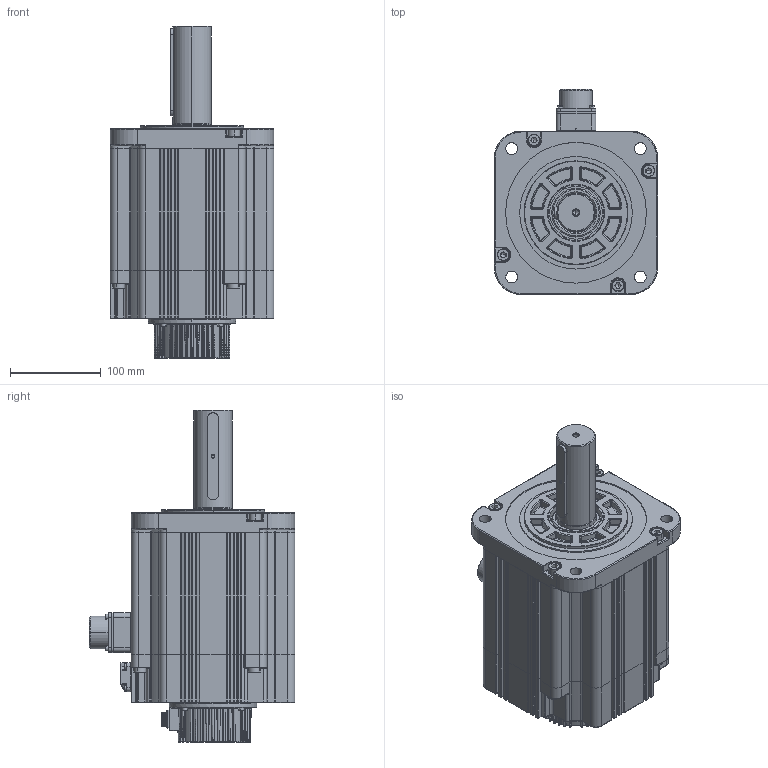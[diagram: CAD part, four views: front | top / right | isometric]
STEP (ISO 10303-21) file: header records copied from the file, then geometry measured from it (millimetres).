
FILE_DESCRIPTION (( 'STEP AP214' ), '1' );
FILE_NAME ('V7E-M18D-4R415-D2BH.STEP', '2021-08-10T05:27:57', ( '' ), ( '' ), 'SwSTEP 2.0', 'SolidWorks 2014', '' );
FILE_SCHEMA (( 'AUTOMOTIVE_DESIGN' ));
Length unit declared in the file: millimetre
Products named in the file (20): SC180儂褲1009; 180粣-47沺郋; SC180ヶ傷裔1009; SCSC瑤諾脣芛 16M-9H; 180#陔隅赽201019; す瑩^180#陔萇儂-拸价陬 201021; V7E-M18D-4R415-D2BH; 埴芛囀鞠褒 ISO 4762 M3 x 30 --- 18N; SC180#綴傷裔蹟隊熬傻-201020; SC蚐猾 D00B999YF8-TC 44-62-10; 埴芛囀鞠褒 ISO 4762 M3 x 10 --- 10N; 埴芛囀鞠褒 ISO 4762 M3 x 8 --- 8N; SC晤鎢ん欶200908_10郋; SC180瑤脣釱1015; 埴芛囀鞠褒 ISO 4762 M6 x 20 --- 20N; 价陬揤盄裔200912; 綴傷裔-111; SC瑤諾脣芛 24-11-9pin; 坋趼攫芛蹟佪 M2X8-8  H type-N; 埴芛囀鞠褒 ISO 4762 M8 x 30 --- 30N
Assembly tree (40 placements, depth 3):
  V7E-M18D-4R415-D2BH
    180#陔隅赽201019
      SC180儂褲1009
      SC180ヶ傷裔1009
      SC180瑤脣釱1015
    SC晤鎢ん欶200908_10郋
    SCSC瑤諾脣芛 16M-9H
    SC蚐猾 D00B999YF8-TC 44-62-10
    坋趼攫芛蹟佪 M2X8-8  H type-N  x4
    埴芛囀鞠褒 ISO 4762 M3 x 10 --- 10N  x4
    埴芛囀鞠褒 ISO 4762 M8 x 30 --- 30N  x8
    埴芛囀鞠褒 ISO 4762 M3 x 30 --- 18N  x4
    180粣-47沺郋
    す瑩^180#陔萇儂-拸价陬 201021
    SC瑤諾脣芛 24-11-9pin
    綴傷裔-111
      SC180#綴傷裔蹟隊熬傻-201020
    价陬揤盄裔200912
    埴芛囀鞠褒 ISO 4762 M3 x 8 --- 8N  x4
    埴芛囀鞠褒 ISO 4762 M6 x 20 --- 20N  x3
Bounding box: 180 x 226.3 x 365.5 mm (x, y, z)
Volume: 2214836.4 mm3; surface area: 577393 mm2
Topology: 39 solids, 39 shells, 3697 faces, 8906 edges, 5137 vertices
Faces by surface type: cylinder 1257, bspline 1051, plane 1002, cone 291, torus 92, sphere 4
Entity records: 155977 total; most frequent: CARTESIAN_POINT 56344, ORIENTED_EDGE 14810, DIRECTION 13046, EDGE_CURVE 7405, AXIS2_PLACEMENT_3D 5161, VERTEX_POINT 4413, EDGE_LOOP 3364, FACE_OUTER_BOUND 3139
